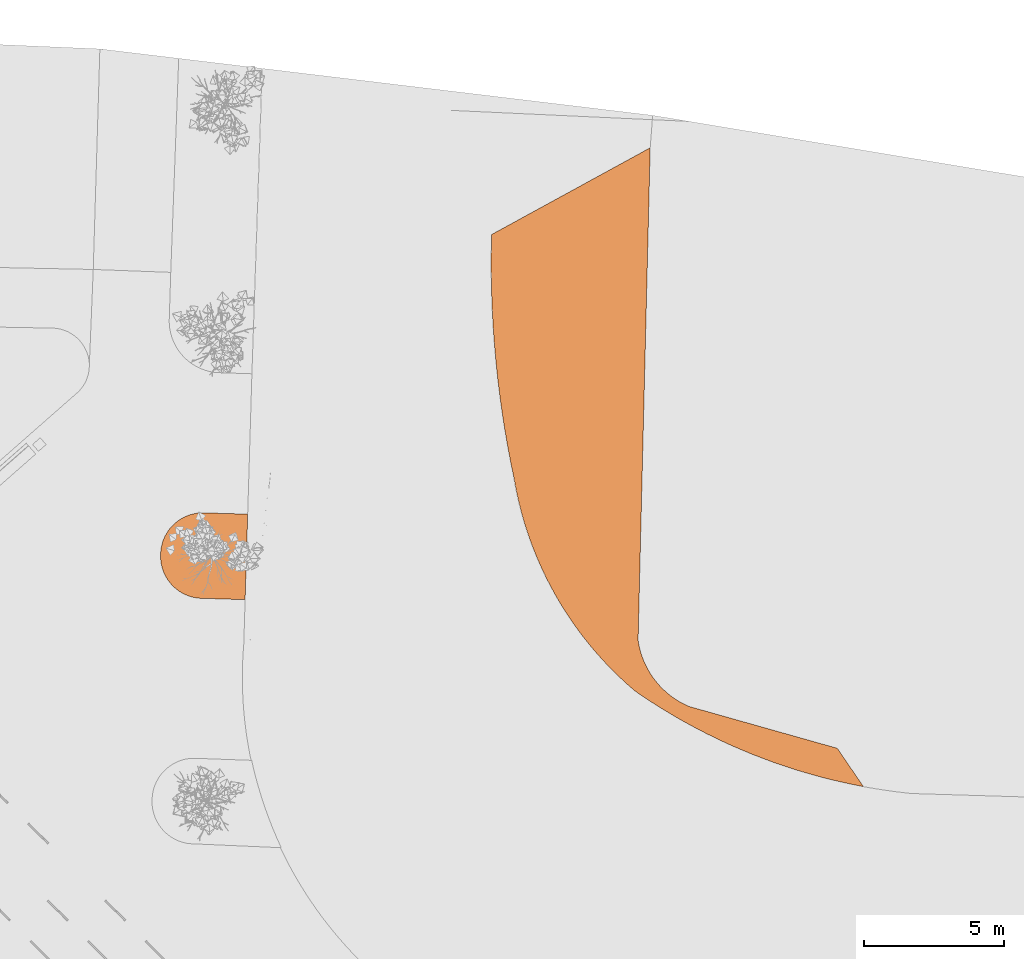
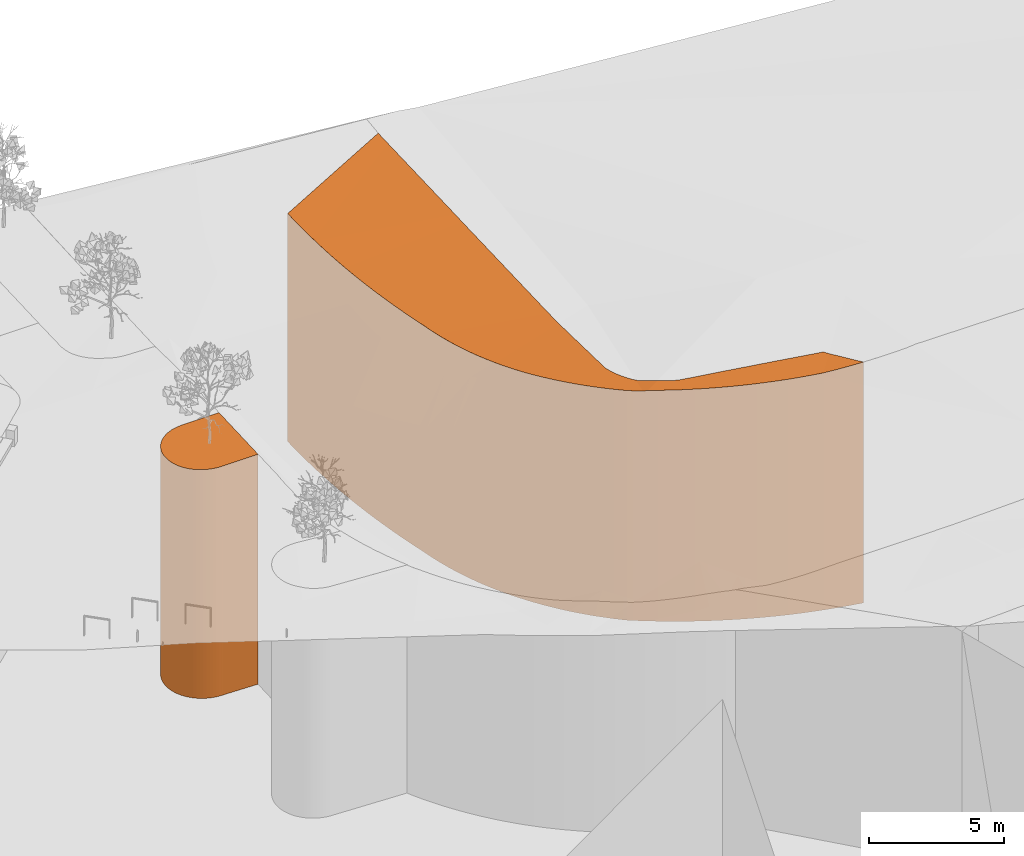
# One storey, part 231 of 246: 2 proxies.
"""IFC2X3 building model written with IfcOpenShell, lengths in millimetres."""

import ifcopenshell
import ifcopenshell.guid

model = None  # the IFC model being written
_history = None  # IfcOwnerHistory: only IFC2X3 demands one
_inside = {}  # id of a spatial element -> (the spatial element, [elements in it])
_under = {}  # id of a project, library or spatial element -> (it, [spatial elements below it])
_declared = {}  # id of a project -> (the project, [libraries it declares])
_typed = {}  # id of a type object -> (the type object, [elements of that type])
_made_of = {}  # id of a material, layer set ... -> (it, [elements and type objects made of it])


def new_model(schema):
    """Start an empty IFC model of exactly this schema.

    Asked for "IFC4X3", IfcOpenShell would pick the latest addendum, in which some entities
    have other attributes; the version numbers below select the first issue.
    IFC2X3 requires an IfcOwnerHistory on every rooted entity: one is made here for all.
    """
    global model, _history
    if schema == "IFC4X3":
        model = ifcopenshell.file(schema_version=(4, 3, 0, 0))
    else:
        model = ifcopenshell.file(schema=schema)
    _inside.clear()
    _under.clear()
    _declared.clear()
    _typed.clear()
    _made_of.clear()
    _history = None
    if model.schema == "IFC2X3":
        org = make("IfcOrganization", Name="unknown")
        user = make(
            "IfcPersonAndOrganization",
            ThePerson=make("IfcPerson", FamilyName="unknown"),
            TheOrganization=org,
        )
        app = make(
            "IfcApplication",
            ApplicationDeveloper=org,
            Version="unknown",
            ApplicationFullName="unknown",
            ApplicationIdentifier="unknown",
        )
        _history = make(
            "IfcOwnerHistory",
            OwningUser=user,
            OwningApplication=app,
            ChangeAction="ADDED",
            CreationDate=0,
        )
    return model


def make(cls, **values):
    """One entity of the class cls with the attributes given. An attribute that is None is left unset."""
    return model.create_entity(
        cls, **{name: value for name, value in values.items() if value is not None}
    )


def entity(cls, *values):
    """Any entity or typed value of the class cls, its attributes in the order of the schema. None: left unset."""
    e = model.create_entity(cls)
    for i, value in enumerate(values):
        if value is not None:
            e[i] = value
    return e


def rooted(cls, **values):
    """An entity with a GlobalId (a new one), such as an element, a storey or a relation."""
    return make(cls, GlobalId=ifcopenshell.guid.new(), OwnerHistory=_history, **values)


def si_unit(unit_type, name, prefix=None):
    """IfcSIUnit, for example si_unit("LENGTHUNIT", "METRE", prefix="MILLI")."""
    return make("IfcSIUnit", UnitType=unit_type, Prefix=prefix, Name=name)


def converted_unit(unit_type, name, factor, base, dimensions=None, offset=None):
    """IfcConversionBasedUnit, such as the inch: factor (a typed value) times the base unit."""
    return make(
        "IfcConversionBasedUnit"
        if offset is None
        else "IfcConversionBasedUnitWithOffset",
        ConversionOffset=offset,
        Dimensions=None
        if dimensions is None
        else entity("IfcDimensionalExponents", *dimensions),
        UnitType=unit_type,
        Name=name,
        ConversionFactor=make(
            "IfcMeasureWithUnit", ValueComponent=factor, UnitComponent=base
        ),
    )


def derived_unit(unit_type, elements):
    """IfcDerivedUnit: a product of units, each with its exponent."""
    return make(
        "IfcDerivedUnit",
        Elements=[
            make("IfcDerivedUnitElement", Unit=unit, Exponent=power)
            for unit, power in elements
        ],
        UnitType=unit_type,
    )


def money_unit(currency):
    """IfcMonetaryUnit."""
    return make("IfcMonetaryUnit", Currency=currency)


def assignment(units):
    """IfcUnitAssignment: the units of a project."""
    return None if units is None else make("IfcUnitAssignment", Units=units)


def point(xyz):
    """IfcCartesianPoint."""
    return None if xyz is None else make("IfcCartesianPoint", Coordinates=xyz)


def direction(xyz):
    """IfcDirection."""
    return None if xyz is None else make("IfcDirection", DirectionRatios=xyz)


def frame(location, z_axis=None, x_axis=None):
    """IfcAxis2Placement3D, a coordinate frame: its origin and axes. An axis left out is left unset."""
    return make(
        "IfcAxis2Placement3D",
        Location=point(location),
        Axis=direction(z_axis),
        RefDirection=direction(x_axis),
    )


def origin_with_axes():
    """The frame at (0, 0, 0) with the z axis (0, 0, 1) and the x axis (1, 0, 0) written out."""
    return frame((0.0, 0.0, 0.0), z_axis=(0.0, 0.0, 1.0), x_axis=(1.0, 0.0, 0.0))


def place(relative_to, where):
    """IfcLocalPlacement: puts the frame where relative to a parent placement (None: the world)."""
    return make(
        "IfcLocalPlacement", PlacementRelTo=relative_to, RelativePlacement=where
    )


def context(
    kind, dimensions, precision=None, world=None, true_north=None, identifier=None
):
    """IfcGeometricRepresentationContext, for example the 3D "Model" context."""
    return make(
        "IfcGeometricRepresentationContext",
        ContextIdentifier=identifier,
        ContextType=kind,
        CoordinateSpaceDimension=dimensions,
        Precision=precision,
        WorldCoordinateSystem=world,
        TrueNorth=true_north,
    )


def subcontext(parent, identifier, kind, view, scale=None):
    """IfcGeometricRepresentationSubContext, for example "Body" below "Model"."""
    return make(
        "IfcGeometricRepresentationSubContext",
        ContextIdentifier=identifier,
        ContextType=kind,
        ParentContext=parent,
        TargetScale=scale,
        TargetView=view,
    )


def project(units=None, contexts=None):
    """IfcProject with its units and contexts."""
    return rooted(
        "IfcProject",
        Name="project",
        RepresentationContexts=contexts,
        UnitsInContext=assignment(units),
    )


def spatial(cls, under=None, at=None, **own):
    """A site, building, storey or space (cls), placed at a placement, below another one or the project."""
    s = rooted(cls, ObjectPlacement=at, **own)
    if under is not None:
        _under.setdefault(under.id(), (under, []))[1].append(s)
    return s


def faces_of(points, faces, orient=None, outer=None):
    """IfcFace entities. A face is a list of loops; a loop is a list of indices into points, from 0.

    orient and outer hold one flag for each loop. By default every Orientation is true, the
    first loop of a face is its IfcFaceOuterBound and the others are IfcFaceBound.
    """
    made = []
    for i, loops in enumerate(faces):
        bounds = []
        for j, loop in enumerate(loops):
            is_outer = j == 0 if outer is None else outer[i][j]
            bounds.append(
                make(
                    "IfcFaceOuterBound" if is_outer else "IfcFaceBound",
                    Bound=make("IfcPolyLoop", Polygon=[points[k] for k in loop]),
                    Orientation=True if orient is None else orient[i][j],
                )
            )
        made.append(make("IfcFace", Bounds=bounds))
    return made


def faceted_brep(points, faces, orient=None, outer=None, voids=None):
    """IfcFacetedBrep: a solid bounded by flat faces; with voids (closed shells), ...WithVoids."""
    shared = [point(p) for p in points]
    hull = make("IfcClosedShell", CfsFaces=faces_of(shared, faces, orient, outer))
    if voids is None:
        return make("IfcFacetedBrep", Outer=hull)
    return make(
        "IfcFacetedBrepWithVoids",
        Outer=hull,
        Voids=[
            make(cls, CfsFaces=faces_of(shared, fs, o, b)) for cls, fs, o, b in voids
        ],
    )


def shape(context_of_items, identifier, shape_type, items):
    """IfcShapeRepresentation: the items that make up one representation, for example the "Body"."""
    return make(
        "IfcShapeRepresentation",
        ContextOfItems=context_of_items,
        RepresentationIdentifier=identifier,
        RepresentationType=shape_type,
        Items=items,
    )


def material(Name=None, Category=None):
    """IfcMaterial."""
    return make("IfcMaterial", Name=Name, Category=Category)


def made_of(thing, what):
    """Note that an element or type object is made of a material, layer set ...; save() writes the relation."""
    if what is not None:
        _made_of.setdefault(what.id(), (what, []))[1].append(thing)
    return thing


def type_object(cls, material=None, **own):
    """A type object (cls), such as IfcWallType, which elements share."""
    return made_of(rooted(cls, **own), material)


def element(
    cls,
    number,
    at=None,
    inside=None,
    cuts=None,
    type_object=None,
    material=None,
    context=None,
    identifier="Body",
    shape_type=None,
    held_by="IfcProductDefinitionShape",
    body=None,
    shapes=None,
    **own,
):
    """One element of the class cls, such as IfcWall. Its Tag is "e" and its number.

    at: its placement. inside: the storey or other place that contains it. cuts: it is an
    opening in that element (IfcRelVoidsElement). A single representation is given by context,
    identifier, shape_type and body (its items); several are given by shapes. held_by: the class
    of the entity that holds the representations. save() writes the other relations.
    """
    e = rooted(cls, Tag="e%d" % number, ObjectPlacement=at, **own)
    if body is not None:
        shapes = [shape(context, identifier, shape_type, body)]
    if shapes is not None:
        e.Representation = make(held_by, Representations=shapes)
    if inside is not None:
        _inside.setdefault(inside.id(), (inside, []))[1].append(e)
    if cuts is not None:
        rooted(
            "IfcRelVoidsElement", RelatingBuildingElement=cuts, RelatedOpeningElement=e
        )
    if type_object is not None:
        _typed.setdefault(type_object.id(), (type_object, []))[1].append(e)
    return made_of(e, material)


def aggregate(whole, parts):
    """IfcRelAggregates: a whole, such as a stair, and the parts it consists of."""
    return rooted("IfcRelAggregates", RelatingObject=whole, RelatedObjects=parts)


def save(model, path):
    """Write the relations noted so far, then the file.

    IfcRelAggregates (storeys below a building ...), IfcRelContainedInSpatialStructure (elements
    in a storey), IfcRelDefinesByType, IfcRelAssociatesMaterial and IfcRelDeclares: one each for
    every whole, place, type object, material and project.
    """
    for whole, parts in _under.values():
        aggregate(whole, parts)
    for where, things in _inside.values():
        rooted(
            "IfcRelContainedInSpatialStructure",
            RelatedElements=things,
            RelatingStructure=where,
        )
    for kind, things in _typed.values():
        rooted("IfcRelDefinesByType", RelatedObjects=things, RelatingType=kind)
    for what, things in _made_of.values():
        rooted("IfcRelAssociatesMaterial", RelatedObjects=things, RelatingMaterial=what)
    for by, libraries in _declared.values():
        rooted("IfcRelDeclares", RelatingContext=by, RelatedDefinitions=libraries)
    model.write(path)


model = new_model("IFC2X3")

# Units and contexts
model_context = context("Model", 3, precision=0.01, world=origin_with_axes(), true_north=direction((0.0, 1.0)))
body_context = subcontext(model_context, "Body", "Model", "MODEL_VIEW")
ifc_project = project(units=[si_unit("LENGTHUNIT", "METRE", prefix="MILLI"), si_unit("AREAUNIT", "SQUARE_METRE"), si_unit("VOLUMEUNIT", "CUBIC_METRE"), converted_unit("PLANEANGLEUNIT", "DEGREE", entity("IfcPlaneAngleMeasure", 0.0174532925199), si_unit("PLANEANGLEUNIT", "RADIAN"), dimensions=[0, 0, 0, 0, 0, 0, 0]), si_unit("SOLIDANGLEUNIT", "STERADIAN"), money_unit("EUR"), converted_unit("TIMEUNIT", "Year", entity("IfcTimeMeasure", 31556926.0), si_unit("TIMEUNIT", "SECOND"), dimensions=[0, 0, 1, 0, 0, 0, 0]), si_unit("MASSUNIT", "GRAM", prefix="KILO"), si_unit("THERMODYNAMICTEMPERATUREUNIT", "DEGREE_CELSIUS"), si_unit("LUMINOUSINTENSITYUNIT", "LUMEN"), si_unit("ENERGYUNIT", "JOULE", prefix="MEGA"), derived_unit("THERMALCONDUCTANCEUNIT", [(si_unit("POWERUNIT", "WATT"), 1), (si_unit("LENGTHUNIT", "METRE"), -1), (si_unit("THERMODYNAMICTEMPERATUREUNIT", "KELVIN"), -1)]), derived_unit("SPECIFICHEATCAPACITYUNIT", [(si_unit("ENERGYUNIT", "JOULE"), 1), (si_unit("MASSUNIT", "GRAM", prefix="KILO"), -1), (si_unit("THERMODYNAMICTEMPERATUREUNIT", "KELVIN"), -1)]), derived_unit("MASSDENSITYUNIT", [(si_unit("MASSUNIT", "GRAM", prefix="KILO"), 1), (si_unit("VOLUMEUNIT", "CUBIC_METRE"), -1)])], contexts=[model_context])

# Site, building, storey
site_placement = place(None, origin_with_axes())
site = spatial("IfcSite", under=ifc_project, at=site_placement, Name="L.Koidula tn 11b", CompositionType="ELEMENT")
building_placement = place(site_placement, origin_with_axes())
building = spatial("IfcBuilding", under=site, at=building_placement, Name="Rakvere Riigigümnaasium", CompositionType="ELEMENT")
storey_placement = place(building_placement, origin_with_axes())
storey = spatial("IfcBuildingStorey", under=building, at=storey_placement, Name="1.korrus 0,00", CompositionType="ELEMENT", Elevation=0.0)

# Proxies
ifc_material_1 = material(Name="Roheala")
building_element_proxy_type_1 = type_object("IfcBuildingElementProxyType", Name="Roheala", PredefinedType="NOTDEFINED")
proxy_1_placement = place(storey_placement, frame((36355.360995, 92188.3544801, -10000.0), z_axis=(0.0, 0.0, 1.0), x_axis=(1.0, 0.0, 0.0)))
element("IfcBuildingElementProxy", 1, at=proxy_1_placement, inside=storey, type_object=building_element_proxy_type_1, material=ifc_material_1, Name="Roheala", context=body_context, shape_type="Brep", body=[
    faceted_brep([(1579.73135764, 3094.25753627, 10351.9975668), (3104.15474521, 3048.16747084, 10395.3683521), (3104.15474521, 3048.16747084, 0.0), (1579.73135764, 3094.25753627, 0.0), (3011.32264696, 0.0, 10395.4042134), (1518.49100191, 3097.40171779, 10350.2541068), (1395.90527495, 3093.6858418, 10346.7729796), (1274.03032027, 3079.9904553, 10343.3208118), (1153.67719559, 3056.40669883, 10339.9205769), (1035.6468311, 3023.0915184, 10336.5949028), (920.724699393, 2980.26662104, 10333.3659215), (809.675588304, 2928.21699937, 10330.2551213), (703.238511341, 2867.28903505, 10327.2832039), (602.121789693, 2797.88819361, 10324.4699471), (506.998338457, 2720.4763262, 10321.8340726), (418.501188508, 2635.56859605, 10319.3931217), (337.219273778, 2543.73005007, 10317.1633386), (263.693511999, 2445.57185864, 10315.159562), (198.413204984, 2341.74724833, 10313.3951268), (141.812782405, 2232.9471548, 10311.881775), (94.2689107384, 2119.8956247, 10310.6295776), (56.097986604, 2003.34499733, 10309.646868), (50.0958529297, 1978.26441271, 10309.4982691), (1476.60217944, 46.6587873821, 10351.7402439), (1493.48063809, 45.6218748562, 10352.2209085), (1523.00559005, 46.5702471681, 10353.0592963), (3011.32264696, 0.0, 0.0), (-1.14852637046, 1525.42351306, 0.0), (0.590380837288, 1587.32786458, 0.0), (0.0415178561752, 1640.54012254, 0.0), (8.82699985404, 1762.86707581, 0.0), (27.5540312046, 1884.07089788, 0.0), (56.097986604, 2003.34499733, 0.0), (94.2689107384, 2119.8956247, 0.0), (141.812782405, 2232.9471548, 0.0), (198.413204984, 2341.74724833, 0.0), (263.693511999, 2445.57185864, 0.0), (337.219273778, 2543.73005007, 0.0), (418.501188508, 2635.56859605, 0.0), (506.998338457, 2720.4763262, 0.0), (602.121789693, 2797.88819361, 0.0), (703.238511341, 2867.28903505, 0.0), (809.675588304, 2928.21699937, 0.0), (920.724699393, 2980.26662104, 0.0), (1035.6468311, 3023.0915184, 0.0), (1153.67719559, 3056.40669883, 0.0), (1274.03032027, 3079.9904553, 0.0), (1395.90527495, 3093.6858418, 0.0), (1518.49100191, 3097.40171779, 0.0), (1523.00559005, 46.5702471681, 0.0), (1493.48063809, 45.6218748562, 0.0), (1431.37033628, 49.4375639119, 0.0), (1393.35235602, 50.3146450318, 0.0), (1270.2537181, 64.0046226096, 0.0), (1148.70603382, 87.8132469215, 0.0), (1029.53959713, 121.577880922, 0.0), (913.568435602, 165.067877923, 0.0), (801.584749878, 217.986157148, 0.0), (694.353502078, 279.971233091, 0.0), (592.607190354, 350.599684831, 0.0), (497.040845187, 429.389048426, 0.0), (408.307281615, 515.801112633, 0.0), (327.012639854, 609.24559543, 0.0), (253.712244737, 709.084176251, 0.0), (188.90681229, 814.634856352, 0.0), (133.039029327, 925.176617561, 0.0), (86.4905294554, 1039.95434756, 0.0), (49.5792861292, 1158.18399808, 0.0), (22.5574405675, 1279.05794071, 0.0), (5.60957937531, 1401.75048386, 0.0), (27.5540312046, 1884.07089788, 10309.9243993), (1431.37033628, 49.4375639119, 10350.913543), (8.82699985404, 1762.86707581, 10310.6550506), (0.0415178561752, 1640.54012254, 10311.5718963), (0.590380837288, 1587.32786458, 10312.0482503), (-1.14852637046, 1525.42351306, 10312.5602443), (5.60957937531, 1401.75048386, 10313.7646098), (22.5574405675, 1279.05794071, 10315.1411259), (49.5792861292, 1158.18399808, 10316.6803896), (86.4905294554, 1039.95434756, 10318.3718861), (133.039029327, 925.176617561, 10320.2040608), (188.90681229, 814.634856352, 10322.1643981), (253.712244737, 709.084176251, 10324.2395069), (327.012639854, 609.24559543, 10326.4152121), (408.307281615, 515.801112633, 10328.6766514), (497.040845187, 429.389048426, 10331.008377), (592.607190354, 350.599684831, 10333.3944607), (694.353502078, 279.971233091, 10335.8186032), (801.584749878, 217.986157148, 10338.2642451), (913.568435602, 165.067877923, 10340.7146803), (1029.53959713, 121.577880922, 10343.1531697), (1148.70603382, 87.8132469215, 10345.563056), (1270.2537181, 64.0046226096, 10347.9278773), (1393.35235602, 50.3146450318, 10350.2314793)], [[[0, 1, 2, 3]], [[4, 1, 0, 5, 6, 7, 8, 9, 10, 11, 12, 13, 14, 15, 16, 17, 18, 19, 20, 21, 22, 23, 24, 25]], [[1, 4, 26, 2]], [[27, 28, 29, 30, 31, 32, 33, 34, 35, 36, 37, 38, 39, 40, 41, 42, 43, 44, 45, 46, 47, 48, 3, 2, 26, 49, 50, 51, 52, 53, 54, 55, 56, 57, 58, 59, 60, 61, 62, 63, 64, 65, 66, 67, 68, 69]], [[5, 0, 3, 48]], [[6, 5, 48, 47]], [[7, 6, 47, 46]], [[8, 7, 46, 45]], [[9, 8, 45, 44]], [[10, 9, 44, 43]], [[11, 10, 43, 42]], [[12, 11, 42, 41]], [[13, 12, 41, 40]], [[14, 13, 40, 39]], [[15, 14, 39, 38]], [[16, 15, 38, 37]], [[17, 16, 37, 36]], [[18, 17, 36, 35]], [[19, 18, 35, 34]], [[20, 19, 34, 33]], [[21, 20, 33, 32]], [[22, 21, 32, 31, 70]], [[71, 23, 22, 70, 72, 73, 74, 75, 76, 77, 78, 79, 80, 81, 82, 83, 84, 85, 86, 87, 88, 89, 90, 91, 92, 93]], [[23, 71, 51, 50, 24]], [[25, 24, 50, 49]], [[4, 25, 49, 26]], [[75, 74, 28, 27]], [[74, 73, 29, 28]], [[73, 72, 30, 29]], [[72, 70, 31, 30]], [[71, 93, 52, 51]], [[93, 92, 53, 52]], [[92, 91, 54, 53]], [[91, 90, 55, 54]], [[90, 89, 56, 55]], [[89, 88, 57, 56]], [[88, 87, 58, 57]], [[87, 86, 59, 58]], [[86, 85, 60, 59]], [[85, 84, 61, 60]], [[84, 83, 62, 61]], [[83, 82, 63, 62]], [[82, 81, 64, 63]], [[81, 80, 65, 64]], [[80, 79, 66, 65]], [[79, 78, 67, 66]], [[78, 77, 68, 67]], [[77, 76, 69, 68]], [[76, 75, 27, 69]]]),
])
ifc_material_2 = material(Name="Kruus")
building_element_proxy_type_2 = type_object("IfcBuildingElementProxyType", Name="Kruus", PredefinedType="NOTDEFINED")
proxy_2_placement = place(storey_placement, frame((48135.6913964, 85529.1681341, -10000.0), z_axis=(0.0, 0.0, 1.0), x_axis=(1.0, 0.0, 0.0)))
element("IfcBuildingElementProxy", 2, at=proxy_2_placement, inside=storey, type_object=building_element_proxy_type_2, material=ifc_material_2, Name="Väljak", context=body_context, shape_type="Brep", body=[
    faceted_brep([(12330.776564, 1364.82039238, 10840.1690751), (12459.6374918, 1176.21725228, 10836.9752677), (13263.2744106, 0.0, 10885.1443811), (13263.2744106, 0.0, 0.0), (12330.776564, 1364.82039238, 0.0), (11953.9643503, 1471.1310063, 10816.8414223), (11677.0347556, 359.746229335, 10712.4153271), (11742.3421432, 341.873819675, 10716.4989374), (13137.8728387, 22.508063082, 10871.0059273), (11793.9088091, 327.761777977, 10722.1131342), (12239.6332485, 216.210248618, 10771.069139), (12687.6928386, 114.442752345, 10820.7080001), (13137.8728387, 22.508063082, 0.0), (13.4969560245, 19671.2350888, 0.0), (5665.58975801, 22762.680979, 0.0), (5234.05166418, 5219.80616501, 0.0), (5246.36557703, 5133.25068545, 0.0), (5280.92576293, 4961.84611282, 0.0), (5325.30350357, 4792.71731544, 0.0), (5379.35138055, 4626.42612216, 0.0), (5442.88985226, 4463.52493561, 0.0), (5515.70785029, 4304.55489715, 0.0), (5597.56348057, 4150.04408924, 0.0), (5688.18482693, 4000.50578127, 0.0), (5787.27085437, 3856.43672445, 0.0), (5894.49240908, 3718.3155017, 0.0), (6009.49331182, 3586.60093783, 0.0), (6131.89154117, 3461.73057538, 0.0), (6261.28050252, 3344.11922113, 0.0), (6397.23037874, 3234.15756817, 0.0), (6539.28955803, 3132.21089806, 0.0), (6686.98613408, 3038.61786738, 0.0), (6839.82947371, 2953.68938277, 0.0), (6997.31184671, 2877.70756811, 0.0), (7059.97661171, 2851.87935301, 0.0), (12687.6928386, 114.442752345, 0.0), (12239.6332485, 216.210248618, 0.0), (11793.9088091, 327.761777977, 0.0), (11350.7331419, 449.043877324, 0.0), (10910.318647, 579.998420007, 0.0), (10472.876401, 720.562643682, 0.0), (10038.616056, 870.669180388, 0.0), (9823.18089764, 950.457634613, 0.0), (9369.41745359, 1123.16126611, 0.0), (8944.23477432, 1297.32701714, 0.0), (8522.96662539, 1480.75865638, 0.0), (8105.81490721, 1673.3682709, 0.0), (7692.97954734, 1875.06354902, 0.0), (7284.65840462, 2085.74782463, 0.0), (6881.04717438, 2305.32012345, 0.0), (6482.33929465, 2533.67521146, 0.0), (6088.72585343, 2770.70364535, 0.0), (5700.39549711, 3016.29182491, 0.0), (5317.53434008, 3270.32204756, 0.0), (5128.93010779, 3401.49730612, 0.0), (5021.96990595, 3491.19218799, 0.0), (4755.69379512, 3727.77783665, 0.0), (4496.18846053, 3971.77111048, 0.0), (4243.65990234, 4222.97832306, 0.0), (3998.30858243, 4481.20006143, 0.0), (3760.32926524, 4746.23134438, 0.0), (3529.91086318, 5017.86178514, 0.0), (3307.23628668, 5295.8757584, 0.0), (3092.48229894, 5580.0525715, 0.0), (2885.81937569, 5870.1666396, 0.0), (2687.41156981, 6165.98766474, 0.0), (2497.4163811, 6467.28081869, 0.0), (2315.98463128, 6773.80692934, 0.0), (2143.26034424, 7085.32267055, 0.0), (1979.38063176, 7401.58075532, 0.0), (1824.47558458, 7722.33013211, 0.0), (1678.66816923, 8047.31618409, 0.0), (1542.07413034, 8376.28093128, 0.0), (1414.8018988, 8708.96323533, 0.0), (1296.95250569, 9045.09900685, 0.0), (1188.61950203, 9384.421415, 0.0), (1089.88888459, 9726.66109933, 0.0), (1000.83902757, 10071.5463836, 0.0), (921.540620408, 10418.8034915, 0.0), (852.056611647, 10768.1567638, 0.0), (822.249385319, 10943.7428206, 0.0), (703.443732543, 11511.7852896, 0.0), (589.933122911, 12108.9174178, 0.0), (486.310979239, 12707.8446992, 0.0), (392.605630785, 13308.403393, 0.0), (308.842695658, 13910.4293125, 0.0), (235.045073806, 14513.7578698, 0.0), (171.232940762, 15118.2241209, 0.0), (117.423742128, 15723.6628107, 0.0), (73.6321887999, 16329.9084185, 0.0), (39.8702529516, 16936.7952026, 0.0), (16.1471647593, 17544.1572463, 0.0), (2.4694098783, 18151.8285028, 0.0), (-1.15927232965, 18759.642841, 0.0), (5.26211018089, 19367.4340905, 0.0), (7059.97661171, 2851.87935301, 10523.1811725), (8637.90613048, 2406.69565199, 10624.4623109), (10299.4617767, 1937.91838199, 10724.291353), (10493.4273382, 1883.19457748, 10736.0551133), (9855.24271274, 938.583237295, 10616.5051703), (10038.616056, 870.669180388, 10625.4360863), (10472.876401, 720.562643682, 10647.3895599), (10910.318647, 579.998420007, 10670.3011111), (11350.7331419, 449.043877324, 10694.1597593), (13.4969560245, 19671.2350888, 10308.000924), (5665.58975801, 22762.680979, 10087.727701), (5301.12403226, 7946.43024203, 10116.4938991), (5234.05166418, 5219.80616501, 10273.6340843), (5646.87810981, 22002.015567, 10083.0580436), (5518.85141366, 16797.4778089, 10074.1284582), (5517.83646512, 16756.2181484, 10073.6894831), (5511.92155154, 16515.7652432, 10071.4576959), (5506.23967235, 16284.7856454, 10069.7635354), (5502.33846566, 16126.1938975, 10068.8679998), (5501.90758431, 16108.6777204, 10068.7883384), (5501.12082973, 16076.6945947, 10068.6358676), (5500.12984786, 16036.4092269, 10068.4596704), (5495.32288911, 15840.996871, 10067.8177053), (5356.09260116, 10181.0110047, 10058.7322838), (5350.73406756, 9963.1760429, 10058.4291048), (5346.42909203, 9788.17029511, 10058.5120981), (5345.68907924, 9758.0873155, 10058.5664579), (5345.38681882, 9745.79983326, 10058.6000695), (5341.81654018, 9600.66096321, 10059.2022452), (5338.49977281, 9465.82782688, 10060.2421434), (5336.09397247, 9368.02729687, 10061.4742273), (5333.63808027, 9268.19043428, 10063.0618171), (5330.8458858, 9154.68222076, 10065.3868708), (5328.14683083, 9044.9603118, 10067.9620231), (5322.55691941, 8817.71938537, 10074.9783357), (5322.13169847, 8800.43331538, 10075.5786129), (5317.64715021, 8618.12758204, 10082.505735), (5316.52143382, 8572.36498984, 10084.4079248), (5310.79336896, 8339.50785356, 10095.0042529), (5309.18350369, 8274.06365467, 10098.2354718), (5246.36557703, 5133.25068545, 10278.2992447), (5280.92576293, 4961.84611282, 10287.3099116), (5325.30350357, 4792.71731544, 10295.9709921), (5379.35138055, 4626.42612216, 10304.2537148), (5442.88985226, 4463.52493561, 10312.1305654), (5515.70785029, 4304.55489715, 10319.5753778), (5597.56348057, 4150.04408924, 10326.563421), (5688.18482693, 4000.50578127, 10333.0714816), (5772.60819606, 3877.75592968, 10338.1891101), (5787.27085437, 3856.43672445, 10342.6558422), (5894.49240908, 3718.3155017, 10373.6233194), (6009.49331182, 3586.60093783, 10405.2705125), (6131.89154117, 3461.73057538, 10437.4922927), (6261.28050252, 3344.11922113, 10470.1816226), (6354.91669848, 3268.38255133, 10492.9438062), (6397.23037874, 3234.15756817, 10494.121504), (6539.28955803, 3132.21089806, 10498.9696303), (6686.98613408, 3038.61786738, 10504.8659455), (6839.82947371, 2953.68938277, 10511.7908628), (6997.31184671, 2877.70756811, 10519.7213781), (9832.54515545, 946.989492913, 10615.272544), (9823.18089764, 950.457634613, 10614.7695081), (9369.41745359, 1123.16126611, 10590.7291294), (8944.23477432, 1297.32701714, 10569.0929158), (8522.96662539, 1480.75865638, 10548.4397941), (8105.81490721, 1673.3682709, 10528.7796627), (7989.03612576, 1730.42183533, 10523.5019518), (7692.97954734, 1875.06354902, 10508.717397), (7284.65840462, 2085.74782463, 10489.0991888), (6881.04717438, 2305.32012345, 10470.4884605), (6482.33929465, 2533.67521146, 10452.8941317), (6088.72585343, 2770.70364535, 10436.3246349), (5766.99413966, 2974.17346069, 10423.4524587), (5700.39549711, 3016.29182491, 10408.3836706), (5609.60281727, 3076.5332055, 10387.5714576), (5317.53434008, 3270.32204756, 10383.0451928), (5128.93010779, 3401.49730612, 10379.7778306), (5021.96990595, 3491.19218799, 10377.0513186), (4755.69379512, 3727.77783665, 10369.5050129), (4520.61265372, 3948.80688561, 10362.1486654), (4496.18846053, 3971.77111048, 10361.3238317), (4243.65990234, 4222.97832306, 10352.4131784), (3998.30858243, 4481.20006143, 10343.3627452), (3966.25654463, 4516.89556977, 10342.1259369), (3760.32926524, 4746.23134438, 10333.64307), (3529.91086318, 5017.86178514, 10323.2939919), (3307.23628668, 5295.8757584, 10312.4072538), (3092.48229894, 5580.0525715, 10300.9914977), (2921.23430954, 5820.45104297, 10291.1011573), (2885.81937569, 5870.1666396, 10289.2141233), (2687.41156981, 6165.98766474, 10277.6886594), (2556.57548793, 6373.46668579, 10269.4044314), (2497.4163811, 6467.28081869, 10266.5291217), (2478.45346621, 6499.31836754, 10265.5117671), (2315.98463128, 6773.80692934, 10258.2892348), (2191.89686336, 6997.60459937, 10252.1397103), (2143.26034424, 7085.32267055, 10250.1770379), (2133.16866897, 7104.79777119, 10249.7178692), (1979.38063176, 7401.58075532, 10244.0562937), (1876.72816359, 7614.13493474, 10239.9213701), (1824.47558458, 7722.33013211, 10238.6347421), (1899.28128665, 7567.43600339, 10240.68864), (1678.66816923, 8047.31618409, 10234.3532737), (1583.11617889, 8277.43776627, 10231.0338002), (1542.07413034, 8376.28093128, 10230.4063832), (1444.80397498, 8630.53953122, 10228.469174), (1414.8018988, 8708.96323533, 10228.1187557), (1306.47161291, 9017.94814619, 10226.3496587), (1296.95250569, 9045.09900685, 10226.3215088), (1191.13227107, 9376.55087865, 10225.5663386), (1188.61950203, 9384.421415, 10225.5743918), (1089.88888459, 9726.66109933, 10225.5073078), (1085.7086491, 9742.85092552, 10225.4847138), (1000.83902757, 10071.5463836, 10226.6022855), (955.694848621, 10269.2380849, 10227.0426004), (921.540620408, 10418.8034915, 10227.8882299), (852.056611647, 10768.1567638, 10229.4645512), (828.101155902, 10909.2716722, 10230.0101618), (822.249385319, 10943.7428206, 10230.2036111), (836.703360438, 10858.5984845, 10229.7705194), (803.149817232, 11035.0631035, 10230.8534026), (703.443732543, 11511.7852896, 10234.8404005), (650.250414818, 11791.6132204, 10236.9790901), (589.933122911, 12108.9174178, 10239.9473217), (486.310979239, 12707.8446992, 10245.1705932), (475.056795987, 12779.9728936, 10245.754195), (392.605630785, 13308.403393, 10250.131889), (308.842695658, 13910.4293125, 10254.7431662), (300.486790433, 13978.742574, 10255.2239368), (235.045073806, 14513.7578698, 10259.9358055), (181.406560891, 15021.8535762, 10264.5261946), (171.232940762, 15118.2241209, 10265.5487932), (216.635943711, 14688.1400339, 10261.3618065), (200.881953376, 14837.3711444, 10262.7500111), (188.31323554, 14956.4294706, 10263.9058204), (126.423663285, 15622.3994466, 10270.577708), (117.423742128, 15723.6628107, 10271.7610784), (73.6321887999, 16329.9084185, 10278.4588131), (63.1521072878, 16518.2928463, 10280.4201277), (39.8702529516, 16936.7952026, 10285.5920153), (19.018394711, 17470.6475886, 10291.8501615), (16.1471647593, 17544.1572463, 10292.8108705), (11.0623227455, 17770.0651064, 10294.427643), (2.4694098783, 18151.8285028, 10297.5428908), (14.0929841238, 17635.4197772, 10293.9459403), (-1.15927232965, 18759.642841, 10302.0714354), (5.26211018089, 19367.4340905, 10306.1685959)], [[[0, 1, 2, 3, 4]], [[1, 0, 5, 6, 7]], [[8, 2, 1, 7, 9, 10, 11]], [[2, 8, 12, 3]], [[13, 14, 15, 16, 17, 18, 19, 20, 21, 22, 23, 24, 25, 26, 27, 28, 29, 30, 31, 32, 33, 34, 4, 3, 12, 35, 36, 37, 38, 39, 40, 41, 42, 43, 44, 45, 46, 47, 48, 49, 50, 51, 52, 53, 54, 55, 56, 57, 58, 59, 60, 61, 62, 63, 64, 65, 66, 67, 68, 69, 70, 71, 72, 73, 74, 75, 76, 77, 78, 79, 80, 81, 82, 83, 84, 85, 86, 87, 88, 89, 90, 91, 92, 93, 94]], [[5, 0, 4, 34, 95, 96, 97, 98]], [[5, 98, 99, 100, 101, 102, 103, 6]], [[6, 103, 38, 37, 9, 7]], [[10, 9, 37, 36]], [[11, 10, 36, 35]], [[8, 11, 35, 12]], [[104, 105, 14, 13]], [[106, 107, 15, 14, 105, 108, 109, 110, 111, 112, 113, 114, 115, 116, 117, 118, 119, 120, 121, 122, 123, 124, 125, 126, 127, 128, 129, 130, 131, 132, 133, 134]], [[107, 135, 16, 15]], [[135, 136, 17, 16]], [[136, 137, 18, 17]], [[137, 138, 19, 18]], [[138, 139, 20, 19]], [[139, 140, 21, 20]], [[140, 141, 22, 21]], [[141, 142, 23, 22]], [[143, 144, 24, 23, 142]], [[144, 145, 25, 24]], [[145, 146, 26, 25]], [[146, 147, 27, 26]], [[147, 148, 28, 27]], [[149, 150, 29, 28, 148]], [[150, 151, 30, 29]], [[151, 152, 31, 30]], [[152, 153, 32, 31]], [[153, 154, 33, 32]], [[154, 95, 34, 33]], [[103, 102, 39, 38]], [[102, 101, 40, 39]], [[101, 100, 41, 40]], [[155, 156, 42, 41, 100, 99]], [[156, 157, 43, 42]], [[157, 158, 44, 43]], [[158, 159, 45, 44]], [[159, 160, 46, 45]], [[161, 162, 47, 46, 160]], [[162, 163, 48, 47]], [[163, 164, 49, 48]], [[164, 165, 50, 49]], [[165, 166, 51, 50]], [[167, 168, 52, 51, 166]], [[169, 170, 53, 52, 168]], [[170, 171, 54, 53]], [[171, 172, 55, 54]], [[172, 173, 56, 55]], [[174, 175, 57, 56, 173]], [[175, 176, 58, 57]], [[176, 177, 59, 58]], [[178, 179, 60, 59, 177]], [[179, 180, 61, 60]], [[180, 181, 62, 61]], [[181, 182, 63, 62]], [[183, 184, 64, 63, 182]], [[184, 185, 65, 64]], [[186, 187, 66, 65, 185]], [[188, 189, 67, 66, 187]], [[190, 191, 68, 67, 189]], [[192, 193, 69, 68, 191]], [[194, 195, 70, 69, 193, 196]], [[195, 197, 71, 70]], [[198, 199, 72, 71, 197]], [[200, 201, 73, 72, 199]], [[202, 203, 74, 73, 201]], [[204, 205, 75, 74, 203]], [[205, 206, 76, 75]], [[207, 208, 77, 76, 206]], [[209, 210, 78, 77, 208]], [[210, 211, 79, 78]], [[212, 213, 80, 79, 211, 214]], [[215, 216, 81, 80, 213]], [[217, 218, 82, 81, 216]], [[218, 219, 83, 82]], [[220, 221, 84, 83, 219]], [[221, 222, 85, 84]], [[223, 224, 86, 85, 222]], [[225, 226, 87, 86, 224, 227, 228, 229]], [[230, 231, 88, 87, 226]], [[231, 232, 89, 88]], [[233, 234, 90, 89, 232]], [[235, 236, 91, 90, 234]], [[237, 238, 92, 91, 236, 239]], [[238, 240, 93, 92]], [[240, 241, 94, 93]], [[241, 104, 13, 94]], [[96, 95, 154, 153, 152, 151, 150, 149, 167, 166, 165, 164, 163, 162, 161]], [[97, 96, 161, 160, 159, 158, 157, 156, 155]], [[98, 97, 155, 99]], [[108, 105, 104, 241, 240, 238, 237]], [[143, 142, 141, 140, 139, 138, 137, 136, 135, 107, 106, 183, 182, 181, 180, 179, 178, 174, 173, 172, 171, 170, 169]], [[109, 108, 237, 239]], [[110, 109, 239, 236, 235]], [[111, 110, 235, 234, 233]], [[112, 111, 233, 232, 231, 230]], [[113, 112, 230, 226, 225]], [[114, 113, 225, 229]], [[115, 114, 229, 228]], [[116, 115, 228, 227]], [[117, 116, 227, 224, 223]], [[118, 117, 223, 222, 221, 220]], [[119, 118, 220, 219, 218, 217]], [[120, 119, 217, 216, 215]], [[121, 120, 215, 213, 212]], [[122, 121, 212, 214]], [[123, 122, 214, 211, 210, 209]], [[124, 123, 209, 208, 207]], [[125, 124, 207, 206, 205, 204]], [[126, 125, 204, 203, 202]], [[127, 126, 202, 201, 200]], [[128, 127, 200, 199, 198]], [[129, 128, 198, 197, 195, 194]], [[130, 129, 194, 196]], [[131, 130, 196, 193, 192]], [[132, 131, 192, 191, 190]], [[133, 132, 190, 189, 188]], [[134, 133, 188, 187, 186]], [[106, 134, 186, 185, 184, 183]], [[149, 148, 147, 146, 145, 144, 143, 169, 168, 167]], [[175, 174, 178, 177, 176]]]),
])

save(model, "model.ifc")
